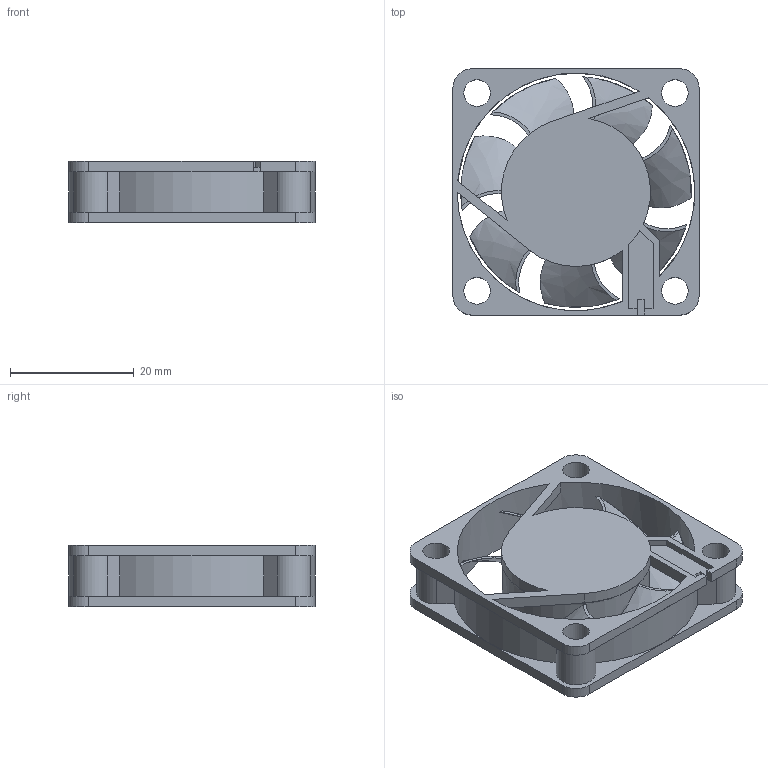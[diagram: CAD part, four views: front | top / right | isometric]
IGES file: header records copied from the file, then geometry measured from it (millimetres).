
Global section: file name: No Iges File Name specified; native system: AutoDesk Inventor R6.1; preprocessor: AutoDesk Inventor Iges Exporter R6.1; author: No Author specified; organization: No Organization specified; date: 20051225.164207; units: inch
Bounding box: 39.88 x 39.88 x 10.01 mm (x, y, z)
Surface area: 7606.3 mm2 (no closed solid volume)
Topology: 0 solids, 0 shells, 107 faces, 587 edges, 580 vertices
Faces by surface type: plane 59, bspline 25, revolution 23
